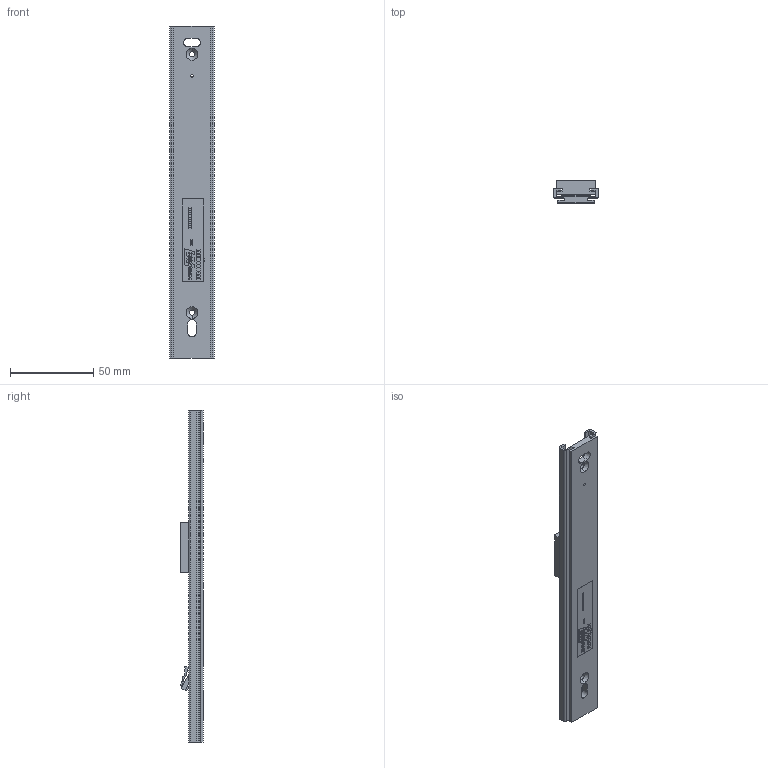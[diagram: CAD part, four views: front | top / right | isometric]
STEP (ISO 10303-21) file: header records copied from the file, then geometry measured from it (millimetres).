
FILE_DESCRIPTION (( 'STEP AP203' ), '1' );
FILE_NAME ('01.010.XX.ZSB.STEP', '2021-11-10T14:13:08', ( '' ), ( '' ), 'SwSTEP 2.0', 'SolidWorks 2019', '' );
FILE_SCHEMA (( 'CONFIG_CONTROL_DESIGN' ));
Length unit declared in the file: millimetre
Products named in the file (8): 32.001.07.EIN_Spritzguss-optimiert; 41.004.02.EIN_Label50x13; 40.006.xx.ein_40.006.00.EIN geknickt; 66.002.00.EIN_Standardschleifet-60300009; 30.001.xx.EIN_30.001.01.ein; 40.006.xx.ein-zusbau_gebogen fuer OM03; 01.010.XX.ZSB; OM03
Assembly tree (7 placements, depth 3):
  01.010.XX.ZSB
    30.001.xx.EIN_30.001.01.ein
    41.004.02.EIN_Label50x13
    32.001.07.EIN_Spritzguss-optimiert
    40.006.xx.ein-zusbau_gebogen fuer OM03
      40.006.xx.ein_40.006.00.EIN geknickt
    66.002.00.EIN_Standardschleifet-60300009
    OM03
Bounding box: 27 x 13.65 x 200 mm (x, y, z)
Volume: 25198.8 mm3; surface area: 31915.9 mm2
Topology: 6 solids, 6 shells, 1045 faces, 2887 edges, 1907 vertices
Faces by surface type: plane 796, bspline 140, cylinder 99, cone 8, sphere 2
Entity records: 38915 total; most frequent: CARTESIAN_POINT 12282, ORIENTED_EDGE 5774, DIRECTION 4554, EDGE_CURVE 2887, LINE 2302, VECTOR 2302, VERTEX_POINT 1907, EDGE_LOOP 1134
